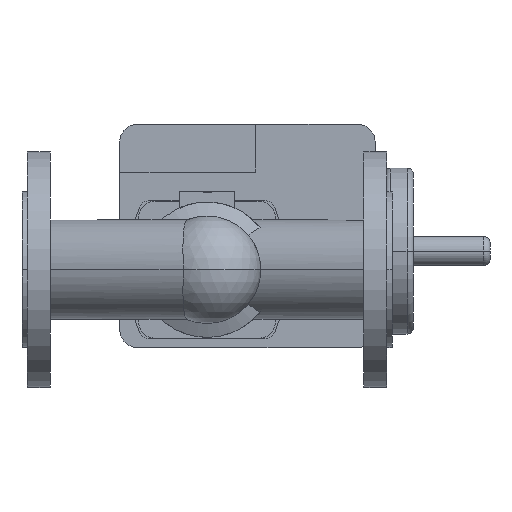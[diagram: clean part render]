
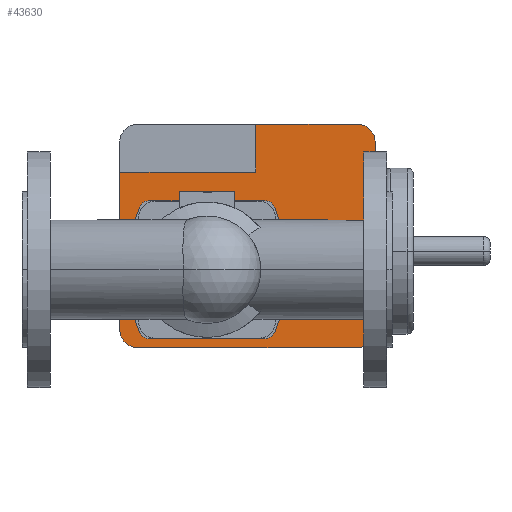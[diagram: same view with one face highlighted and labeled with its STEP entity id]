
A CAD part, front view. The second image highlights one B-rep face of the part: STEP entity #43630.
In plain terms, the highlighted planar face has unit normal (0, -1, 0).
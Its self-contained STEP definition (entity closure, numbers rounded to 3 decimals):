
#41450=CARTESIAN_POINT('',(189.784,406.,54.2));
#41460=VERTEX_POINT('',#41450);
#41490=CARTESIAN_POINT('',(189.784,406.,45.2));
#41500=DIRECTION('',(0.,1.,0.));
#41510=DIRECTION('',(0.,0.,1.));
#41520=AXIS2_PLACEMENT_3D('',#41490,#41500,#41510);
#41530=CIRCLE('',#41520,9.);
#41540=CARTESIAN_POINT('',(197.942,406.,49.002));
#41550=VERTEX_POINT('',#41540);
#41560=EDGE_CURVE('',#41460,#41550,#41530,.T.);
#41740=CARTESIAN_POINT('',(92.8,406.,0.));
#41750=DIRECTION('',(0.,1.,0.));
#41760=DIRECTION('',(0.906,0.,0.422));
#41770=AXIS2_PLACEMENT_3D('',#41740,#41750,#41760);
#41780=CIRCLE('',#41770,116.);
#41790=CARTESIAN_POINT('',(197.942,406.,-49.002));
#41800=VERTEX_POINT('',#41790);
#41810=EDGE_CURVE('',#41550,#41800,#41780,.T.);
#41990=CARTESIAN_POINT('',(189.784,406.,-45.2));
#42000=DIRECTION('',(0.,1.,0.));
#42010=DIRECTION('',(0.906,0.,-0.422));
#42020=AXIS2_PLACEMENT_3D('',#41990,#42000,#42010);
#42030=CIRCLE('',#42020,9.);
#42040=CARTESIAN_POINT('',(189.784,406.,-54.2));
#42050=VERTEX_POINT('',#42040);
#42060=EDGE_CURVE('',#41800,#42050,#42030,.T.);
#42240=CARTESIAN_POINT('',(167.392,406.,-54.2));
#42250=DIRECTION('',(-1.,0.,0.));
#42260=VECTOR('',#42250,1.);
#42270=LINE('',#42240,#42260);
#42280=CARTESIAN_POINT('',(100.216,406.,-54.2));
#42290=VERTEX_POINT('',#42280);
#42300=EDGE_CURVE('',#42050,#42290,#42270,.T.);
#42420=CARTESIAN_POINT('',(145.,406.,0.));
#42430=DIRECTION('',(0.,1.,0.));
#42440=DIRECTION('',(0.,0.,1.));
#42450=AXIS2_PLACEMENT_3D('',#42420,#42430,#42440);
#42460=PLANE('',#42450);
#42470=CARTESIAN_POINT('',(197.2,406.,0.));
#42480=DIRECTION('',(0.,1.,0.));
#42490=DIRECTION('',(-0.906,0.,-0.422));
#42500=AXIS2_PLACEMENT_3D('',#42470,#42480,#42490);
#42510=CIRCLE('',#42500,116.);
#42520=CARTESIAN_POINT('',(92.058,406.,-49.002));
#42530=VERTEX_POINT('',#42520);
#42540=CARTESIAN_POINT('',(92.058,406.,49.002));
#42550=VERTEX_POINT('',#42540);
#42560=EDGE_CURVE('',#42530,#42550,#42510,.T.);
#42570=ORIENTED_EDGE('',*,*,#42560,.T.);
#42580=CARTESIAN_POINT('',(100.216,406.,-45.2));
#42590=DIRECTION('',(0.,1.,0.));
#42600=DIRECTION('',(0.,0.,-1.));
#42610=AXIS2_PLACEMENT_3D('',#42580,#42590,#42600);
#42620=CIRCLE('',#42610,9.);
#42630=EDGE_CURVE('',#42290,#42530,#42620,.T.);
#42640=ORIENTED_EDGE('',*,*,#42630,.T.);
#42650=ORIENTED_EDGE('',*,*,#42300,.T.);
#42660=ORIENTED_EDGE('',*,*,#42060,.T.);
#42670=ORIENTED_EDGE('',*,*,#41810,.T.);
#42680=ORIENTED_EDGE('',*,*,#41560,.T.);
#42690=CARTESIAN_POINT('',(122.608,406.,54.2));
#42700=DIRECTION('',(1.,0.,0.));
#42710=VECTOR('',#42700,1.);
#42720=LINE('',#42690,#42710);
#42730=CARTESIAN_POINT('',(100.216,406.,54.2));
#42740=VERTEX_POINT('',#42730);
#42750=EDGE_CURVE('',#42740,#41460,#42720,.T.);
#42760=ORIENTED_EDGE('',*,*,#42750,.T.);
#42770=CARTESIAN_POINT('',(100.216,406.,45.2));
#42780=DIRECTION('',(0.,1.,0.));
#42790=DIRECTION('',(-0.906,0.,0.422));
#42800=AXIS2_PLACEMENT_3D('',#42770,#42780,#42790);
#42810=CIRCLE('',#42800,9.);
#42820=EDGE_CURVE('',#42550,#42740,#42810,.T.);
#42830=ORIENTED_EDGE('',*,*,#42820,.T.);
#42840=EDGE_LOOP('',(#42830,#42760,#42680,#42670,#42660,#42650,#42640,
#42570));
#42850=FACE_BOUND('',#42840,.T.);
#42860=CARTESIAN_POINT('',(183.1,406.,38.25));
#42870=DIRECTION('',(0.,0.,-1.));
#42880=VECTOR('',#42870,1.);
#42890=LINE('',#42860,#42880);
#42900=CARTESIAN_POINT('',(183.1,406.,114.));
#42910=VERTEX_POINT('',#42900);
#42920=CARTESIAN_POINT('',(183.1,406.,76.5));
#42930=VERTEX_POINT('',#42920);
#42940=EDGE_CURVE('',#42910,#42930,#42890,.T.);
#42950=ORIENTED_EDGE('',*,*,#42940,.T.);
#42960=CARTESIAN_POINT('',(90.6,406.,114.));
#42970=DIRECTION('',(1.,0.,0.));
#42980=VECTOR('',#42970,1.);
#42990=LINE('',#42960,#42980);
#43000=CARTESIAN_POINT('',(262.6,406.,114.));
#43010=VERTEX_POINT('',#43000);
#43020=EDGE_CURVE('',#42910,#43010,#42990,.T.);
#43030=ORIENTED_EDGE('',*,*,#43020,.F.);
#43040=CARTESIAN_POINT('',(262.6,406.,100.));
#43050=DIRECTION('',(0.,1.,0.));
#43060=DIRECTION('',(0.,0.,1.));
#43070=AXIS2_PLACEMENT_3D('',#43040,#43050,#43060);
#43080=CIRCLE('',#43070,14.);
#43090=CARTESIAN_POINT('',(276.6,406.,100.));
#43100=VERTEX_POINT('',#43090);
#43110=EDGE_CURVE('',#43010,#43100,#43080,.T.);
#43120=ORIENTED_EDGE('',*,*,#43110,.F.);
#43130=CARTESIAN_POINT('',(276.6,406.,100.));
#43140=DIRECTION('',(0.,0.,-1.));
#43150=VECTOR('',#43140,1.);
#43160=LINE('',#43130,#43150);
#43170=CARTESIAN_POINT('',(276.6,406.,-47.));
#43180=VERTEX_POINT('',#43170);
#43190=EDGE_CURVE('',#43100,#43180,#43160,.T.);
#43200=ORIENTED_EDGE('',*,*,#43190,.F.);
#43210=CARTESIAN_POINT('',(262.6,406.,-47.));
#43220=DIRECTION('',(0.,1.,0.));
#43230=DIRECTION('',(1.,0.,0.));
#43240=AXIS2_PLACEMENT_3D('',#43210,#43220,#43230);
#43250=CIRCLE('',#43240,14.);
#43260=CARTESIAN_POINT('',(262.6,406.,-61.));
#43270=VERTEX_POINT('',#43260);
#43280=EDGE_CURVE('',#43180,#43270,#43250,.T.);
#43290=ORIENTED_EDGE('',*,*,#43280,.F.);
#43300=CARTESIAN_POINT('',(262.6,406.,-61.));
#43310=DIRECTION('',(-1.,0.,0.));
#43320=VECTOR('',#43310,1.);
#43330=LINE('',#43300,#43320);
#43340=CARTESIAN_POINT('',(90.6,406.,-61.));
#43350=VERTEX_POINT('',#43340);
#43360=EDGE_CURVE('',#43270,#43350,#43330,.T.);
#43370=ORIENTED_EDGE('',*,*,#43360,.F.);
#43380=CARTESIAN_POINT('',(90.6,406.,-47.));
#43390=DIRECTION('',(0.,1.,0.));
#43400=DIRECTION('',(0.,0.,-1.));
#43410=AXIS2_PLACEMENT_3D('',#43380,#43390,#43400);
#43420=CIRCLE('',#43410,14.);
#43430=CARTESIAN_POINT('',(76.6,406.,-47.));
#43440=VERTEX_POINT('',#43430);
#43450=EDGE_CURVE('',#43350,#43440,#43420,.T.);
#43460=ORIENTED_EDGE('',*,*,#43450,.F.);
#43470=CARTESIAN_POINT('',(76.6,406.,-47.));
#43480=DIRECTION('',(0.,0.,1.));
#43490=VECTOR('',#43480,1.);
#43500=LINE('',#43470,#43490);
#43510=CARTESIAN_POINT('',(76.6,406.,76.5));
#43520=VERTEX_POINT('',#43510);
#43530=EDGE_CURVE('',#43440,#43520,#43500,.T.);
#43540=ORIENTED_EDGE('',*,*,#43530,.F.);
#43550=CARTESIAN_POINT('',(110.3,406.,76.5));
#43560=DIRECTION('',(-1.,0.,0.));
#43570=VECTOR('',#43560,1.);
#43580=LINE('',#43550,#43570);
#43590=EDGE_CURVE('',#42930,#43520,#43580,.T.);
#43600=ORIENTED_EDGE('',*,*,#43590,.T.);
#43610=EDGE_LOOP('',(#43600,#43540,#43460,#43370,#43290,#43200,#43120,
#43030,#42950));
#43620=FACE_OUTER_BOUND('',#43610,.T.);
#43630=ADVANCED_FACE('',(#42850,#43620),#42460,.F.);
